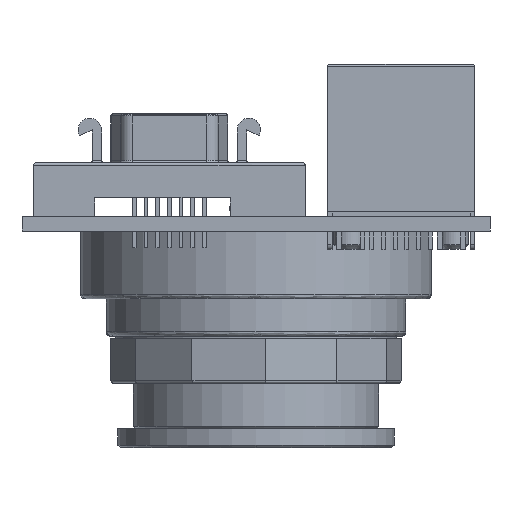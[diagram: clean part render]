
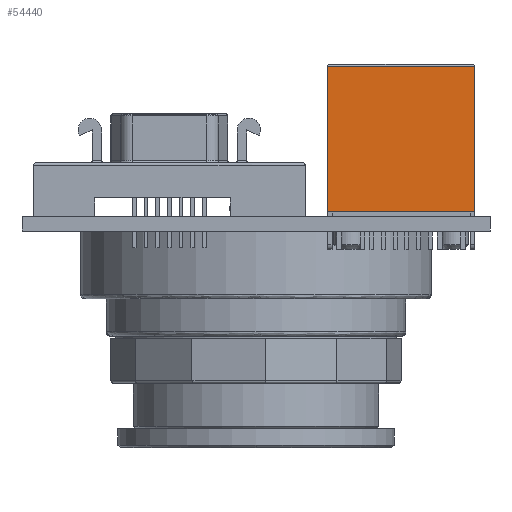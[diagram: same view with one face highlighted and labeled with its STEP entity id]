
A CAD part, front view. The second image highlights one B-rep face of the part: STEP entity #54440.
In plain terms, the highlighted planar face has unit normal (0, -1, 0).
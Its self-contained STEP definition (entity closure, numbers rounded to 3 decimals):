
#1646 = VECTOR ( 'NONE', #58665, 1000. ) ;
#1741 = ORIENTED_EDGE ( 'NONE', *, *, #1927, .T. ) ;
#1927 = EDGE_CURVE ( 'NONE', #37602, #55094, #47438, .T. ) ;
#7629 = VERTEX_POINT ( 'NONE', #18295 ) ;
#7809 = CARTESIAN_POINT ( 'NONE',  ( -8.001, -6.604, 12.954 ) ) ;
#10902 = EDGE_LOOP ( 'NONE', ( #51747, #22531, #1741, #24801 ) ) ;
#11305 = CARTESIAN_POINT ( 'NONE',  ( -8.001, -6.604, 15.748 ) ) ;
#13342 = CARTESIAN_POINT ( 'NONE',  ( -8.001, -6.604, 15.748 ) ) ;
#13561 = CARTESIAN_POINT ( 'NONE',  ( 8.001, -6.604, 12.954 ) ) ;
#14617 = CARTESIAN_POINT ( 'NONE',  ( -8.001, -6.604, 12.954 ) ) ;
#16370 = CARTESIAN_POINT ( 'NONE',  ( -8.001, -6.604, 0. ) ) ;
#18295 = CARTESIAN_POINT ( 'NONE',  ( 8.001, -6.604, 15.748 ) ) ;
#19309 = DIRECTION ( 'NONE',  ( -1., 0., 0. ) ) ;
#22531 = ORIENTED_EDGE ( 'NONE', *, *, #41749, .T. ) ;
#24801 = ORIENTED_EDGE ( 'NONE', *, *, #31799, .F. ) ;
#25474 = DIRECTION ( 'NONE',  ( 1., 0., 0. ) ) ;
#26496 = VECTOR ( 'NONE', #46327, 1000. ) ;
#29083 = VECTOR ( 'NONE', #25474, 1000. ) ;
#29933 = VECTOR ( 'NONE', #37021, 1000. ) ;
#30585 = LINE ( 'NONE', #11305, #29083 ) ;
#30602 = FACE_OUTER_BOUND ( 'NONE', #10902, .T. ) ;
#31799 = EDGE_CURVE ( 'NONE', #7629, #55094, #39057, .T. ) ;
#37021 = DIRECTION ( 'NONE',  ( 1., 0., 0. ) ) ;
#37602 = VERTEX_POINT ( 'NONE', #16370 ) ;
#37934 = CARTESIAN_POINT ( 'NONE',  ( -8.001, -6.604, 0. ) ) ;
#39057 = LINE ( 'NONE', #13561, #26496 ) ;
#40730 = LINE ( 'NONE', #7809, #1646 ) ;
#41749 = EDGE_CURVE ( 'NONE', #51887, #37602, #40730, .T. ) ;
#46327 = DIRECTION ( 'NONE',  ( 0., 0., -1. ) ) ;
#47324 = DIRECTION ( 'NONE',  ( 0., 1., 0. ) ) ;
#47438 = LINE ( 'NONE', #37934, #29933 ) ;
#49592 = EDGE_CURVE ( 'NONE', #51887, #7629, #30585, .T. ) ;
#51632 = PLANE ( 'NONE',  #59985 ) ;
#51747 = ORIENTED_EDGE ( 'NONE', *, *, #49592, .F. ) ;
#51887 = VERTEX_POINT ( 'NONE', #13342 ) ;
#54440 = ADVANCED_FACE ( 'NONE', ( #30602 ), #51632, .F. ) ;
#55094 = VERTEX_POINT ( 'NONE', #58386 ) ;
#58386 = CARTESIAN_POINT ( 'NONE',  ( 8.001, -6.604, 0. ) ) ;
#58665 = DIRECTION ( 'NONE',  ( 0., 0., -1. ) ) ;
#59985 = AXIS2_PLACEMENT_3D ( 'NONE', #14617, #47324, #19309 ) ;
